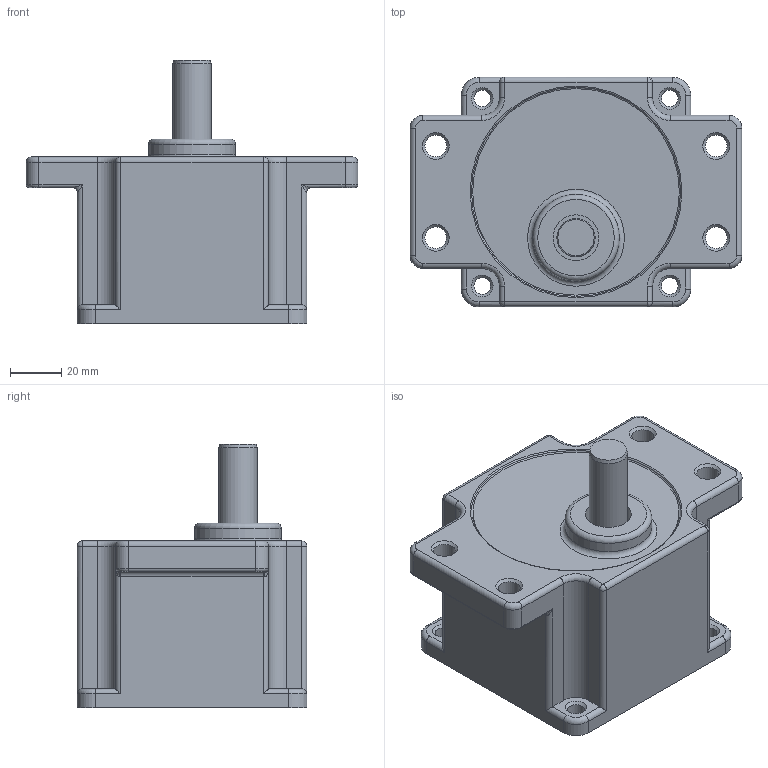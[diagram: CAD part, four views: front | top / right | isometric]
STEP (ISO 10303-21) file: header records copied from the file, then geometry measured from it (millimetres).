
FILE_DESCRIPTION((''),'2;1');
FILE_NAME('D:\김성묵\업무폴더\개발 파일\프로젝트 개발 AB등급\AC표준형 개발자료\90각 이하 표준형 개발\도면작성 자료\3D 도면\GEAR HEAD\S9SC3~200-S.stp','2015-03-24T18:52:06',('smkim'),(''),'Autodesk Inventor 2012','Autodesk Inventor 2012','');
FILE_SCHEMA(('AUTOMOTIVE_DESIGN { 1 0 10303 214 1 1 1 1 }'));
Length unit declared in the file: millimetre
Products named in the file (1): S9SC3~200-S
Bounding box: 130 x 90 x 103.5 mm (x, y, z)
Volume: 489570.7 mm3; surface area: 49647.6 mm2
Topology: 2 solids, 2 shells, 139 faces, 313 edges, 178 vertices
Faces by surface type: cylinder 61, plane 29, torus 24, cone 17, bspline 4, sphere 4
Full cylindrical faces by diameter (mm): 6.5 x4, 8.5 x4, 12 x1, 15 x1, 18 x1, 34 x1, 83 x1
Entity records: 3928 total; most frequent: CARTESIAN_POINT 870, DIRECTION 692, ORIENTED_EDGE 544, AXIS2_PLACEMENT_3D 292, EDGE_CURVE 272, EDGE_LOOP 194, VERTEX_POINT 176, CIRCLE 148
